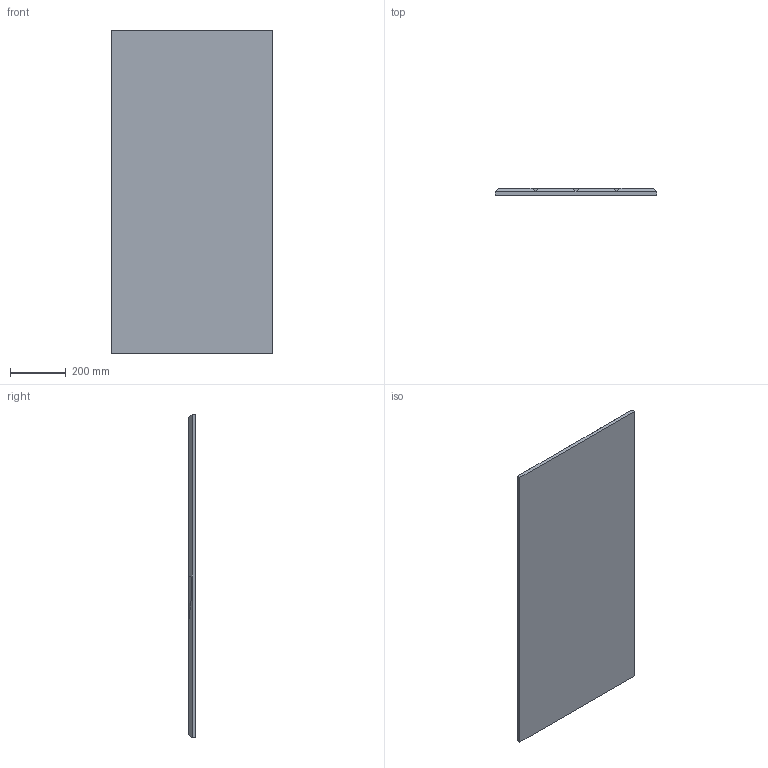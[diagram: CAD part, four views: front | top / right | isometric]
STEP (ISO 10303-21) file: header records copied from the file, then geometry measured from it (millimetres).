
FILE_DESCRIPTION (( 'STEP AP214' ), '1' );
FILE_NAME ('180109_BAUX_Panels-curve_1.STEP', '2018-01-09T14:03:06', ( '' ), ( '' ), 'SwSTEP 2.0', 'SolidWorks 2014', '' );
FILE_SCHEMA (( 'AUTOMOTIVE_DESIGN' ));
Length unit declared in the file: millimetre
Products named in the file (1): 180109_BAUX_Panels-curve_1
Bounding box: 580 x 25 x 1160 mm (x, y, z)
Volume: 15959242.8 mm3; surface area: 1445325 mm2
Topology: 1 solids, 1 shells, 35 faces, 76 edges, 43 vertices
Faces by surface type: plane 27, cone 8
Entity records: 961 total; most frequent: CARTESIAN_POINT 182, ORIENTED_EDGE 152, DIRECTION 151, EDGE_CURVE 76, VECTOR 55, LINE 55, AXIS2_PLACEMENT_3D 48, VERTEX_POINT 43
